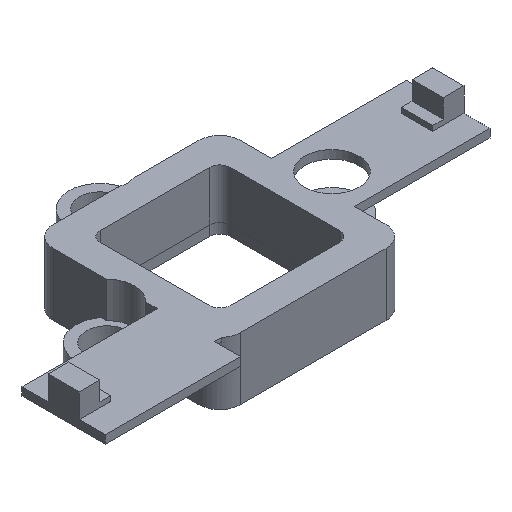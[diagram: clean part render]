
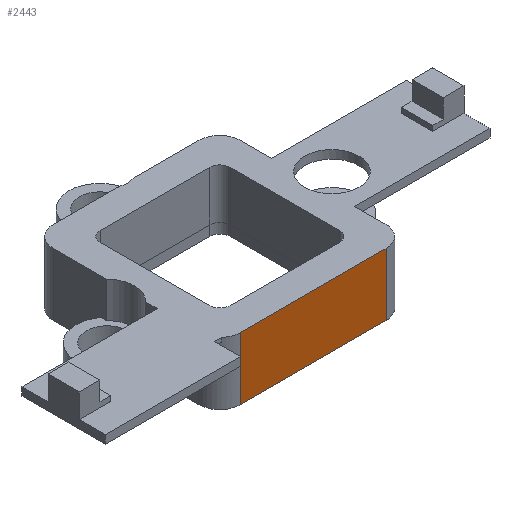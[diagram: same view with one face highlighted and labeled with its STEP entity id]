
A CAD part, isometric view. The second image highlights one B-rep face of the part: STEP entity #2443.
In plain terms, the highlighted planar face has unit normal (0, -1, 0).
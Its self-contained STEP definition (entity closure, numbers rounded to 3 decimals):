
#44 = CYLINDRICAL_SURFACE('',#45,2.);
#45 = AXIS2_PLACEMENT_3D('',#46,#47,#48);
#46 = CARTESIAN_POINT('',(-7.,-50.,2.6));
#47 = DIRECTION('',(0.,0.,1.));
#48 = DIRECTION('',(-1.,-0.,0.));
#72 = PLANE('',#73);
#73 = AXIS2_PLACEMENT_3D('',#74,#75,#76);
#74 = CARTESIAN_POINT('',(-9.,-52.,2.6));
#75 = DIRECTION('',(0.,0.,1.));
#76 = DIRECTION('',(1.,0.,-0.));
#127 = PLANE('',#128);
#128 = AXIS2_PLACEMENT_3D('',#129,#130,#131);
#129 = CARTESIAN_POINT('',(-19.,-63.,8.6));
#130 = DIRECTION('',(0.,0.,1.));
#131 = DIRECTION('',(1.,0.,0.));
#483 = VERTEX_POINT('',#484);
#484 = CARTESIAN_POINT('',(-7.,-52.,2.6));
#506 = EDGE_CURVE('',#483,#507,#509,.T.);
#507 = VERTEX_POINT('',#508);
#508 = CARTESIAN_POINT('',(-7.,-52.,8.6));
#509 = SURFACE_CURVE('',#510,(#514,#521),.PCURVE_S1.);
#510 = LINE('',#511,#512);
#511 = CARTESIAN_POINT('',(-7.,-52.,2.6));
#512 = VECTOR('',#513,1.);
#513 = DIRECTION('',(0.,0.,1.));
#514 = PCURVE('',#44,#515);
#515 = DEFINITIONAL_REPRESENTATION('',(#516),#520);
#516 = LINE('',#517,#518);
#517 = CARTESIAN_POINT('',(1.571,0.));
#518 = VECTOR('',#519,1.);
#519 = DIRECTION('',(0.,1.));
#520 = ( GEOMETRIC_REPRESENTATION_CONTEXT(2) 
PARAMETRIC_REPRESENTATION_CONTEXT() REPRESENTATION_CONTEXT('2D SPACE',''
  ) );
#521 = PCURVE('',#522,#527);
#522 = PLANE('',#523);
#523 = AXIS2_PLACEMENT_3D('',#524,#525,#526);
#524 = CARTESIAN_POINT('',(-9.,-52.,2.6));
#525 = DIRECTION('',(0.,1.,0.));
#526 = DIRECTION('',(0.,-0.,1.));
#527 = DEFINITIONAL_REPRESENTATION('',(#528),#532);
#528 = LINE('',#529,#530);
#529 = CARTESIAN_POINT('',(0.,2.));
#530 = VECTOR('',#531,1.);
#531 = DIRECTION('',(1.,0.));
#532 = ( GEOMETRIC_REPRESENTATION_CONTEXT(2) 
PARAMETRIC_REPRESENTATION_CONTEXT() REPRESENTATION_CONTEXT('2D SPACE',''
  ) );
#1072 = EDGE_CURVE('',#507,#1073,#1075,.T.);
#1073 = VERTEX_POINT('',#1074);
#1074 = CARTESIAN_POINT('',(7.,-52.,8.6));
#1075 = SURFACE_CURVE('',#1076,(#1080,#1087),.PCURVE_S1.);
#1076 = LINE('',#1077,#1078);
#1077 = CARTESIAN_POINT('',(-14.,-52.,8.6));
#1078 = VECTOR('',#1079,1.);
#1079 = DIRECTION('',(1.,0.,0.));
#1080 = PCURVE('',#127,#1081);
#1081 = DEFINITIONAL_REPRESENTATION('',(#1082),#1086);
#1082 = LINE('',#1083,#1084);
#1083 = CARTESIAN_POINT('',(5.,11.));
#1084 = VECTOR('',#1085,1.);
#1085 = DIRECTION('',(1.,0.));
#1086 = ( GEOMETRIC_REPRESENTATION_CONTEXT(2) 
PARAMETRIC_REPRESENTATION_CONTEXT() REPRESENTATION_CONTEXT('2D SPACE',''
  ) );
#1087 = PCURVE('',#522,#1088);
#1088 = DEFINITIONAL_REPRESENTATION('',(#1089),#1092);
#1089 = B_SPLINE_CURVE_WITH_KNOTS('',1,(#1090,#1091),.UNSPECIFIED.,.F.,
  .F.,(2,2),(7.,21.),.PIECEWISE_BEZIER_KNOTS.);
#1090 = CARTESIAN_POINT('',(6.,2.));
#1091 = CARTESIAN_POINT('',(6.,16.));
#1092 = ( GEOMETRIC_REPRESENTATION_CONTEXT(2) 
PARAMETRIC_REPRESENTATION_CONTEXT() REPRESENTATION_CONTEXT('2D SPACE',''
  ) );
#1111 = CYLINDRICAL_SURFACE('',#1112,2.);
#1112 = AXIS2_PLACEMENT_3D('',#1113,#1114,#1115);
#1113 = CARTESIAN_POINT('',(7.,-50.,2.6));
#1114 = DIRECTION('',(0.,0.,1.));
#1115 = DIRECTION('',(1.,0.,-0.));
#1994 = EDGE_CURVE('',#483,#1995,#1997,.T.);
#1995 = VERTEX_POINT('',#1996);
#1996 = CARTESIAN_POINT('',(7.,-52.,2.6));
#1997 = SURFACE_CURVE('',#1998,(#2002,#2009),.PCURVE_S1.);
#1998 = LINE('',#1999,#2000);
#1999 = CARTESIAN_POINT('',(-9.,-52.,2.6));
#2000 = VECTOR('',#2001,1.);
#2001 = DIRECTION('',(1.,0.,0.));
#2002 = PCURVE('',#72,#2003);
#2003 = DEFINITIONAL_REPRESENTATION('',(#2004),#2008);
#2004 = LINE('',#2005,#2006);
#2005 = CARTESIAN_POINT('',(0.,0.));
#2006 = VECTOR('',#2007,1.);
#2007 = DIRECTION('',(1.,0.));
#2008 = ( GEOMETRIC_REPRESENTATION_CONTEXT(2) 
PARAMETRIC_REPRESENTATION_CONTEXT() REPRESENTATION_CONTEXT('2D SPACE',''
  ) );
#2009 = PCURVE('',#522,#2010);
#2010 = DEFINITIONAL_REPRESENTATION('',(#2011),#2015);
#2011 = LINE('',#2012,#2013);
#2012 = CARTESIAN_POINT('',(0.,0.));
#2013 = VECTOR('',#2014,1.);
#2014 = DIRECTION('',(0.,1.));
#2015 = ( GEOMETRIC_REPRESENTATION_CONTEXT(2) 
PARAMETRIC_REPRESENTATION_CONTEXT() REPRESENTATION_CONTEXT('2D SPACE',''
  ) );
#2443 = ADVANCED_FACE('',(#2444),#522,.F.);
#2444 = FACE_BOUND('',#2445,.F.);
#2445 = EDGE_LOOP('',(#2446,#2447,#2448,#2449));
#2446 = ORIENTED_EDGE('',*,*,#1994,.F.);
#2447 = ORIENTED_EDGE('',*,*,#506,.T.);
#2448 = ORIENTED_EDGE('',*,*,#1072,.T.);
#2449 = ORIENTED_EDGE('',*,*,#2450,.F.);
#2450 = EDGE_CURVE('',#1995,#1073,#2451,.T.);
#2451 = SURFACE_CURVE('',#2452,(#2456,#2463),.PCURVE_S1.);
#2452 = LINE('',#2453,#2454);
#2453 = CARTESIAN_POINT('',(7.,-52.,2.6));
#2454 = VECTOR('',#2455,1.);
#2455 = DIRECTION('',(0.,0.,1.));
#2456 = PCURVE('',#522,#2457);
#2457 = DEFINITIONAL_REPRESENTATION('',(#2458),#2462);
#2458 = LINE('',#2459,#2460);
#2459 = CARTESIAN_POINT('',(0.,16.));
#2460 = VECTOR('',#2461,1.);
#2461 = DIRECTION('',(1.,0.));
#2462 = ( GEOMETRIC_REPRESENTATION_CONTEXT(2) 
PARAMETRIC_REPRESENTATION_CONTEXT() REPRESENTATION_CONTEXT('2D SPACE',''
  ) );
#2463 = PCURVE('',#1111,#2464);
#2464 = DEFINITIONAL_REPRESENTATION('',(#2465),#2469);
#2465 = LINE('',#2466,#2467);
#2466 = CARTESIAN_POINT('',(4.712,0.));
#2467 = VECTOR('',#2468,1.);
#2468 = DIRECTION('',(-0.,1.));
#2469 = ( GEOMETRIC_REPRESENTATION_CONTEXT(2) 
PARAMETRIC_REPRESENTATION_CONTEXT() REPRESENTATION_CONTEXT('2D SPACE',''
  ) );
